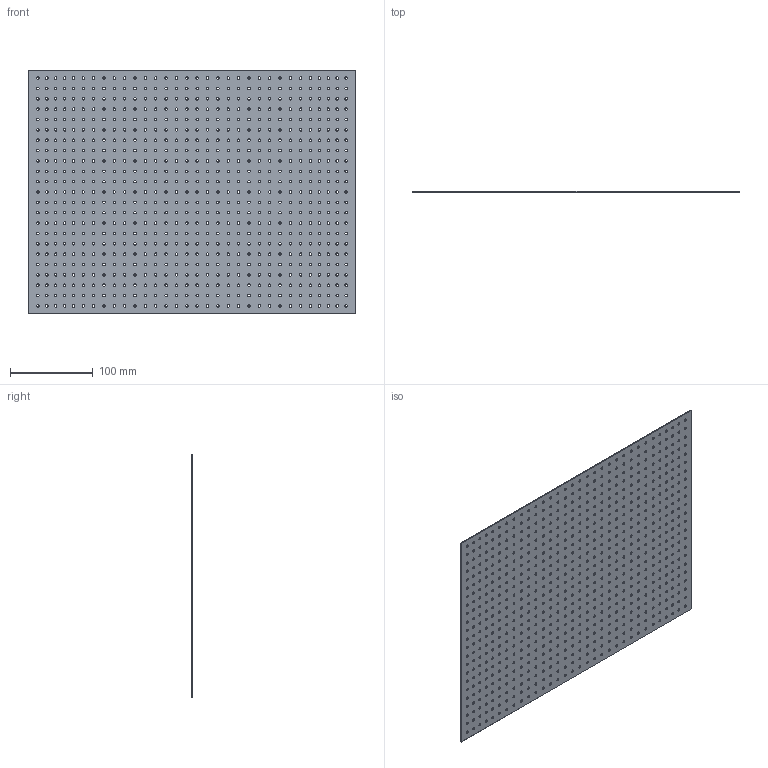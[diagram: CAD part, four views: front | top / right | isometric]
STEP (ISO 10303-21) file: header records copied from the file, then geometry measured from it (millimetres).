
FILE_DESCRIPTION (( 'STEP AP203' ), '1' );
FILE_NAME ('VM00322.STEP', '2016-10-24T12:31:50', ( '' ), ( '' ), 'SwSTEP 2.0', 'SolidWorks 2016', '' );
FILE_SCHEMA (( 'CONFIG_CONTROL_DESIGN' ));
Length unit declared in the file: millimetre
Products named in the file (1): VM00322
Bounding box: 393.5 x 1 x 293.5 mm (x, y, z)
Volume: 110289.8 mm3; surface area: 228890.2 mm2
Topology: 1 solids, 1 shells, 1478 faces, 4428 edges, 2952 vertices
Faces by surface type: cylinder 1472, plane 6
Entity records: 54697 total; most frequent: DIRECTION 10330, CARTESIAN_POINT 8859, ORIENTED_EDGE 8856, EDGE_CURVE 4428, AXIS2_PLACEMENT_3D 4423, VERTEX_POINT 2952, EDGE_LOOP 2950, CIRCLE 2944
